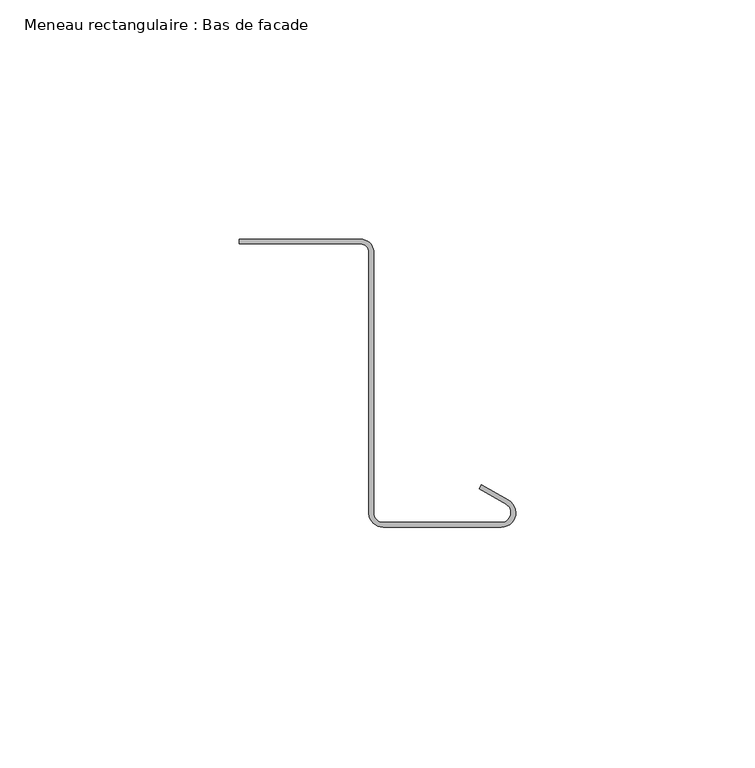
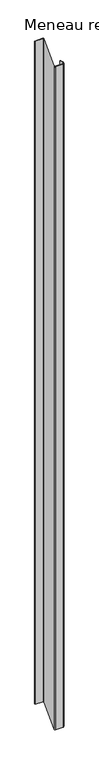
"""IFC4 building model written with IfcOpenShell, lengths in millimetres: member geometry, Meneau rectangulaire : Bas de facade."""

from ifc_helpers import new_model, si_unit, frame, origin, place, context, project, spatial, polyline, ellipse_curve, source, transform, mapped, element, save
from ifc_brep_helpers import plane_surface, cylinder_surface, revolved_surface, advanced_brep


def meneau_rectangulaire_bas_de_facade_dee41482(model_context):
    return source(origin(), model_context, "Body", "AdvancedBrep", [
        advanced_brep(
        [(-57.8548383, 2.9588923, 2.9588923), (-32.4584179, 2.9588923, 2.9588923), (-32.4584179, 2.9588923, -2197.3787168), (-57.8548383, 2.9588923, -2197.3787168), (-57.8548383, 1.9588923, 1.9588923), (-57.8548383, 1.9588923, -2198.3787168), (-32.4584179, 1.9588923, 1.9588923), (-32.4584179, 1.9588923, -2198.3787168), (-30.7239521, 0.4415475, 0.4415475), (-30.7239521, 0.4415475, -2199.8960616), (-30.7239521, -54.522067, -54.522067), (-30.7239521, -54.522067, -2254.8596761), (-27.735368, -57.2605998, -57.2605998), (-27.735368, -57.2605998, -2257.5982088), (-3.0, -57.2605998, -57.2605998), (-3.0, -57.2605998, -2257.5982088), (-1.5, -51.6625235, -51.6625235), (-1.5, -51.6625235, -2252.0001326), (-7.1638061, -48.3925235, -48.3925235), (-7.1638061, -48.3925235, -2248.7301326), (-7.6638061, -49.258549, -49.258549), (-7.6638061, -49.258549, -2249.596158), (-2.0, -52.528549, -52.528549), (-2.0, -52.528549, -2252.866158), (-3.0, -56.2605998, -56.2605998), (-3.0, -56.2605998, -2256.5982088), (-27.735368, -56.2605998, -56.2605998), (-27.735368, -56.2605998, -2256.5982088), (-29.7143802, -54.5495817, -54.5495817), (-29.7143802, -54.5495817, -2254.8871908), (-29.7143802, 0.3898824, 0.3898824), (-29.7143802, 0.3898824, -2199.9477267)],
        [
            (0, 1),
            (1, 2),
            (2, 3),
            (3, 0),
            (4, 0),
            (3, 5),
            (5, 4),
            (6, 4),
            (5, 7),
            (7, 6),
            (8, 6, ellipse_curve(frame((-32.4584179, 0.2088923, 0.2088923), z_axis=(0.0, -0.7071067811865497, 0.7071067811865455), x_axis=(0.0, -0.7071067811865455, -0.7071067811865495)), 2.4748737, 1.75)),
            (7, 9, ellipse_curve(frame((-32.4584179, 0.2088923, -2200.1287168), z_axis=(0.0, 0.7071067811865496, -0.7071067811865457), x_axis=(0.0, -0.7071067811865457, -0.7071067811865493)), 2.4748737, 1.75)),
            (9, 8),
            (10, 8),
            (9, 11),
            (11, 10),
            (12, 10, ellipse_curve(frame((-27.735368, -54.2605998, -54.2605998), z_axis=(0.0, 0.7071067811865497, -0.7071067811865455), x_axis=(0.0, 0.7071067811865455, 0.7071067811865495)), 4.2426407, 3.0)),
            (11, 13, ellipse_curve(frame((-27.735368, -54.2605998, -2254.5982088), z_axis=(0.0, -0.7071067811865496, 0.7071067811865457), x_axis=(0.0, 0.7071067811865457, 0.7071067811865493)), 4.2426407, 3.0)),
            (13, 12),
            (14, 12),
            (13, 15),
            (15, 14),
            (16, 14, ellipse_curve(frame((-3.0, -54.2605998, -54.2605998), z_axis=(0.0, 0.7071067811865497, -0.7071067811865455), x_axis=(0.0, 0.7071067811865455, 0.7071067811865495)), 4.2426407, 3.0)),
            (15, 17, ellipse_curve(frame((-3.0, -54.2605998, -2254.5982088), z_axis=(0.0, -0.7071067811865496, 0.7071067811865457), x_axis=(0.0, 0.7071067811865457, 0.7071067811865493)), 4.2426407, 3.0)),
            (17, 16),
            (18, 16),
            (17, 19),
            (19, 18),
            (20, 18),
            (19, 21),
            (21, 20),
            (22, 20),
            (21, 23),
            (23, 22),
            (24, 22, ellipse_curve(frame((-3.0, -54.2605998, -54.2605998), z_axis=(0.0, -0.7071067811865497, 0.7071067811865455), x_axis=(0.0, -0.7071067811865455, -0.7071067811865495)), 2.8284271, 2.0)),
            (23, 25, ellipse_curve(frame((-3.0, -54.2605998, -2254.5982088), z_axis=(0.0, 0.7071067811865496, -0.7071067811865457), x_axis=(0.0, -0.7071067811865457, -0.7071067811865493)), 2.8284271, 2.0)),
            (25, 24),
            (26, 24),
            (25, 27),
            (27, 26),
            (28, 26, ellipse_curve(frame((-27.735368, -54.2605998, -54.2605998), z_axis=(0.0, -0.7071067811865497, 0.7071067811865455), x_axis=(0.0, -0.7071067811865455, -0.7071067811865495)), 2.8284271, 2.0)),
            (27, 29, ellipse_curve(frame((-27.735368, -54.2605998, -2254.5982088), z_axis=(0.0, 0.7071067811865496, -0.7071067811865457), x_axis=(0.0, -0.7071067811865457, -0.7071067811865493)), 2.8284271, 2.0)),
            (29, 28),
            (30, 28),
            (29, 31),
            (31, 30),
            (1, 30, ellipse_curve(frame((-32.4584179, 0.2088923, 0.2088923), z_axis=(0.0, 0.7071067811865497, -0.7071067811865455), x_axis=(0.0, 0.7071067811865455, 0.7071067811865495)), 3.8890873, 2.75)),
            (31, 2, ellipse_curve(frame((-32.4584179, 0.2088923, -2200.1287168), z_axis=(0.0, -0.7071067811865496, 0.7071067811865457), x_axis=(0.0, 0.7071067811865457, 0.7071067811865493)), 3.8890873, 2.75)),
        ],
        [
            plane_surface(frame((-32.4584179, 2.9588923, 0.0), z_axis=(0.0, 1.0, 0.0), x_axis=(0.0, 0.0, -1.0))),
            plane_surface(frame((-57.8548383, 2.9588923, 0.0), z_axis=(-1.0, 0.0, 0.0), x_axis=(0.0, 0.0, -1.0))),
            plane_surface(frame((-57.8548383, 1.9588923, 0.0), z_axis=(0.0, -1.0, 0.0), x_axis=(0.0, 0.0, -1.0))),
            revolved_surface(polyline([(-32.4584179, 1.9588923, -2201.87871677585), (-32.4584179, 1.9588923, 1.9588923)]), (-32.4584179, 0.2088923, 0.0), (0.0, 0.0, -1.0)),
            plane_surface(frame((-30.7239521, 0.4415475, 0.0), z_axis=(-1.0, 0.0, 0.0), x_axis=(0.0, 0.0, -1.0))),
            cylinder_surface(frame((-27.735368, -54.2605998, 0.0), z_axis=(0.0, 0.0, 1.0000000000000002), x_axis=(-0.9961946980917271, -0.08715574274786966, 0.0)), 3.0),
            plane_surface(frame((-27.735368, -57.2605998, 0.0), z_axis=(0.0, -1.0, 0.0), x_axis=(0.0, 0.0, -1.0))),
            cylinder_surface(frame((-3.0, -54.2605998, 0.0), z_axis=(0.0, 0.0, 1.0), x_axis=(0.0, -1.0, 0.0)), 3.0),
            plane_surface(frame((-1.5, -51.6625235, 0.0), z_axis=(0.5000000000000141, 0.8660254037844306, 0.0), x_axis=(0.0, 0.0, -1.0))),
            plane_surface(frame((-7.1638061, -48.3925235, 0.0), z_axis=(-0.8660254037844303, 0.5000000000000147, 0.0), x_axis=(0.0, 0.0, -1.0))),
            plane_surface(frame((-7.6638061, -49.258549, 0.0), z_axis=(-0.500000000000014, -0.8660254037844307, 0.0), x_axis=(0.0, 0.0, -1.0))),
            revolved_surface(polyline([(-3.0, -56.2605998, -2256.5982088), (-3.0, -56.2605998, -52.260599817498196)]), (-3.0, -54.2605998, 0.0), (0.0, 0.0, -1.0)),
            plane_surface(frame((-3.0, -56.2605998, 0.0), z_axis=(0.0, 1.0, 0.0), x_axis=(0.0, 0.0, -1.0))),
            revolved_surface(polyline([(-29.727757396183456, -54.434911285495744, -2256.598208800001), (-29.727757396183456, -54.434911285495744, -52.260599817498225)]), (-27.735368, -54.2605998, 0.0), (0.0, 0.0, -1.0000000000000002)),
            plane_surface(frame((-29.7143802, -54.5495817, 0.0), z_axis=(1.0, 0.0, 0.0), x_axis=(0.0, 0.0, -1.0))),
            cylinder_surface(frame((-32.4584179, 0.2088923, 0.0), z_axis=(0.0, 0.0, 1.0), x_axis=(0.0, 1.0, 0.0)), 2.75),
            plane_surface(frame((304.8, 0.0, 0.0), z_axis=(0.0, -0.7071067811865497, 0.7071067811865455), x_axis=(0.0, -0.7071067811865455, -0.7071067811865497))),
            plane_surface(frame((-304.8, 0.0, -2200.3376091), z_axis=(0.0, 0.7071067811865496, -0.7071067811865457), x_axis=(0.0, 0.7071067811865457, 0.7071067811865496))),
        ],
        [
            (0, [[1, 2, 3, 4]]),
            (1, [[5, -4, 6, 7]]),
            (2, [[8, -7, 9, 10]]),
            (3, [[11, -10, 12, 13]]),
            (4, [[14, -13, 15, 16]]),
            (5, [[17, -16, 18, 19]]),
            (6, [[20, -19, 21, 22]]),
            (7, [[23, -22, 24, 25]]),
            (8, [[26, -25, 27, 28]]),
            (9, [[29, -28, 30, 31]]),
            (10, [[32, -31, 33, 34]]),
            (11, [[35, -34, 36, 37]]),
            (12, [[38, -37, 39, 40]]),
            (13, [[41, -40, 42, 43]]),
            (14, [[44, -43, 45, 46]]),
            (15, [[47, -46, 48, -2]]),
            (16, [[-1, -5, -8, -11, -14, -17, -20, -23, -26, -29, -32, -35, -38, -41, -44, -47]]),
            (17, [[-48, -45, -42, -39, -36, -33, -30, -27, -24, -21, -18, -15, -12, -9, -6, -3]]),
        ],
    ),
    ])


if __name__ == "__main__":
    model = new_model("IFC4")
    model_context = context("Model", 3, world=origin())
    ifc_project = project(units=[si_unit("LENGTHUNIT", "METRE", prefix="MILLI")], contexts=[model_context])
    site = spatial("IfcSite", under=ifc_project)
    building = spatial("IfcBuilding", under=site)
    placement = place(None, origin())
    meneau_rectangulaire_bas_de_facade_shape = meneau_rectangulaire_bas_de_facade_dee41482(model_context)
    element("IfcMember", 1, ObjectType="Meneau rectangulaire : Bas de facade", at=placement, inside=building, context=model_context, shape_type="MappedRepresentation", body=[
        mapped(meneau_rectangulaire_bas_de_facade_shape, transform((0.0, 0.0, 0.0), x_axis=(1.0, 0.0, 0.0), y_axis=(0.0, 1.0, 0.0), z_axis=(0.0, 0.0, 1.0))),
    ])
    save(model, "model.ifc")
